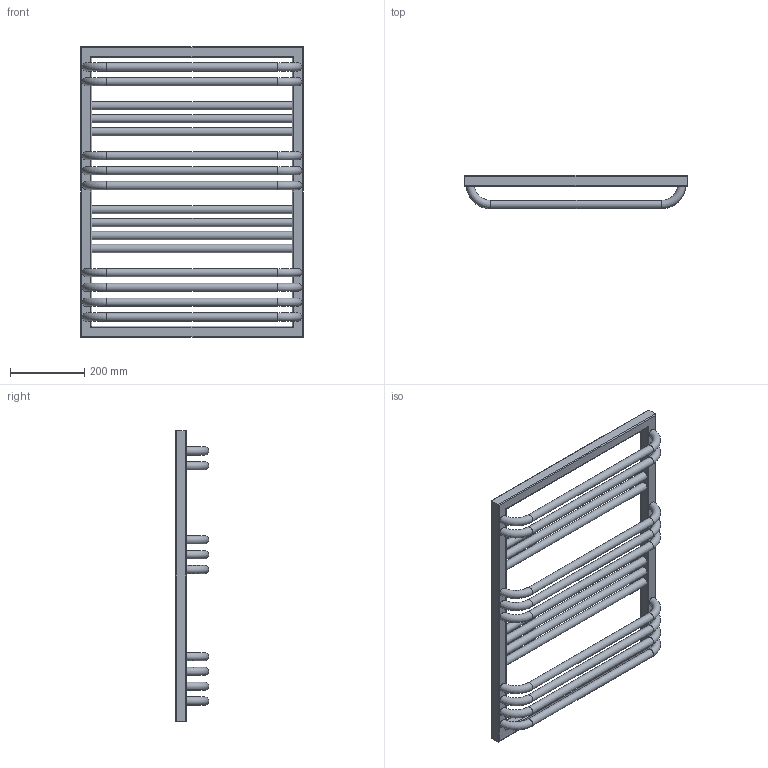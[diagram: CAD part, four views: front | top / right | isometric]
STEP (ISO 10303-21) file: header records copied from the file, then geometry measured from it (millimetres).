
FILE_DESCRIPTION((''),'2;1');
FILE_NAME('Z:\R\G\P\RGPH18 - Grzejnik POC\Work\Inventor\POC 1-6-8 v2.0\Marketing\AutoCad 3D\POC-785-600-1-6-8.stp','2012-07-12T14:39:46',('KurKa'),(''),'Autodesk Inventor 2012','Autodesk Inventor 2012','');
FILE_SCHEMA(('AUTOMOTIVE_DESIGN { 1 0 10303 214 1 1 1 1 }'));
Length unit declared in the file: millimetre
Products named in the file (1): POC-785-600-1-6-8
Bounding box: 600 x 90 x 785 mm (x, y, z)
Volume: 5920453.7 mm3; surface area: 941612.9 mm2
Topology: 1 solids, 1 shells, 69 faces, 173 edges, 109 vertices
Faces by surface type: cylinder 35, torus 21, plane 13
Full cylindrical faces by diameter (mm): 18.631 x3, 22 x16
Entity records: 2918 total; most frequent: CARTESIAN_POINT 1446, DIRECTION 294, ORIENTED_EDGE 230, EDGE_LOOP 146, AXIS2_PLACEMENT_3D 127, EDGE_CURVE 115, VERTEX_POINT 91, FACE_BOUND 77
